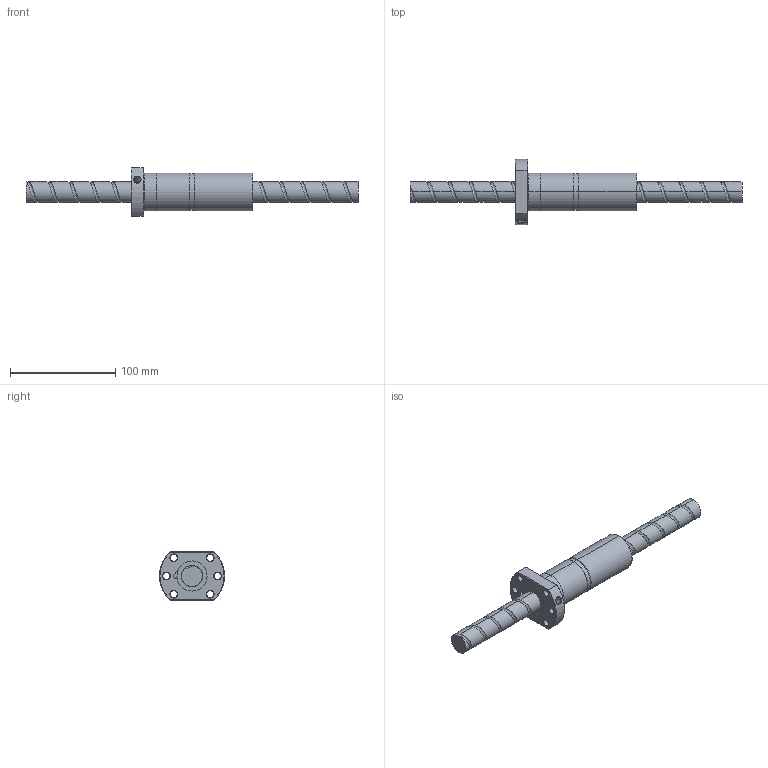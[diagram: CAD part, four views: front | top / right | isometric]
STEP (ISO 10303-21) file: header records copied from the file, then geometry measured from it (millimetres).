
FILE_DESCRIPTION (( 'STEP AP214' ), '1' );
FILE_NAME ('FDDC02020T2-B-C.STEP', '2010-07-06T02:58:39', ( 'XPAUTO' ), ( 'XPAUTO' ), 'SwSTEP 2.0', 'SolidWorks 2007', '' );
FILE_SCHEMA (( 'AUTOMOTIVE_DESIGN' ));
Length unit declared in the file: millimetre
Products named in the file (3): FDDC02020T2-B-C.sldasm-Part-2_預設; FDDC02020T2-B-C; FDDC02020T2-B-C.sldasm-Part-1_預設
Assembly tree (2 placements, depth 2):
  FDDC02020T2-B-C
    FDDC02020T2-B-C.sldasm-Part-2_預設
    FDDC02020T2-B-C.sldasm-Part-1_預設
Bounding box: 316 x 62 x 46 mm (x, y, z)
Volume: 191281.6 mm3; surface area: 48799.8 mm2
Topology: 2 solids, 2 shells, 135 faces, 331 edges, 205 vertices
Faces by surface type: cylinder 74, cone 24, plane 22, torus 10, bspline 5
Entity records: 25336 total; most frequent: CARTESIAN_POINT 22147, ORIENTED_EDGE 662, DIRECTION 629, EDGE_CURVE 331, AXIS2_PLACEMENT_3D 257, VERTEX_POINT 205, EDGE_LOOP 156, FACE_OUTER_BOUND 135
